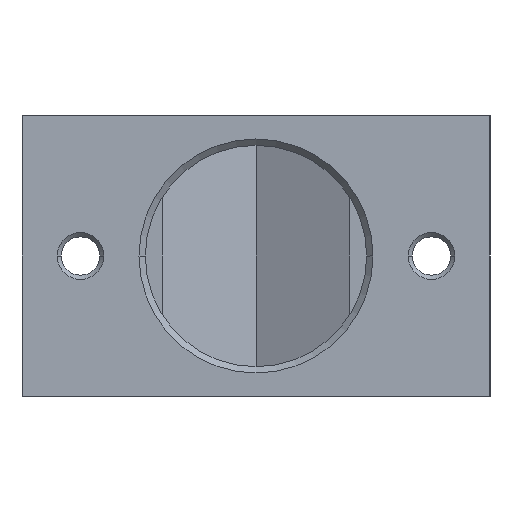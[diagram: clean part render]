
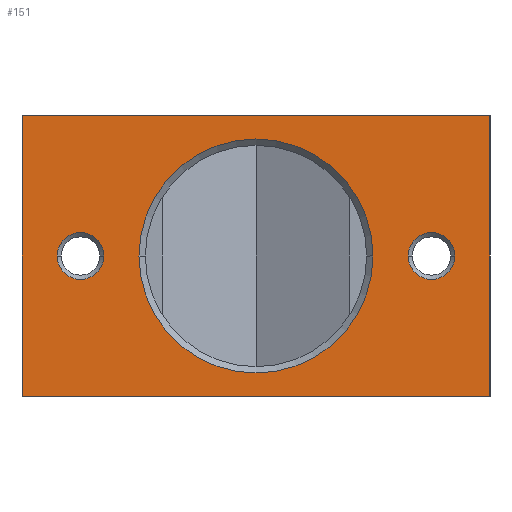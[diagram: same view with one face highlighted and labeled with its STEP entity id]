
A CAD part, left-side view. The second image highlights one B-rep face of the part: STEP entity #151.
In plain terms, the highlighted planar face has unit normal (-1, 0, 0).
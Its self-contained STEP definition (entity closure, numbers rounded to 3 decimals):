
#151 = ADVANCED_FACE( '', ( #234, #235, #236, #237 ), #238, .T. );
#234 = FACE_BOUND( '', #347, .T. );
#235 = FACE_BOUND( '', #348, .T. );
#236 = FACE_BOUND( '', #349, .T. );
#237 = FACE_OUTER_BOUND( '', #350, .T. );
#238 = PLANE( '', #351 );
#347 = EDGE_LOOP( '', ( #614, #615 ) );
#348 = EDGE_LOOP( '', ( #616, #617 ) );
#349 = EDGE_LOOP( '', ( #618, #619 ) );
#350 = EDGE_LOOP( '', ( #620, #621, #622, #623 ) );
#351 = AXIS2_PLACEMENT_3D( '', #624, #625, #626 );
#614 = ORIENTED_EDGE( '', *, *, #851, .T. );
#615 = ORIENTED_EDGE( '', *, *, #829, .T. );
#616 = ORIENTED_EDGE( '', *, *, #864, .T. );
#617 = ORIENTED_EDGE( '', *, *, #819, .T. );
#618 = ORIENTED_EDGE( '', *, *, #868, .T. );
#619 = ORIENTED_EDGE( '', *, *, #809, .T. );
#620 = ORIENTED_EDGE( '', *, *, #882, .T. );
#621 = ORIENTED_EDGE( '', *, *, #871, .F. );
#622 = ORIENTED_EDGE( '', *, *, #883, .F. );
#623 = ORIENTED_EDGE( '', *, *, #880, .T. );
#624 = CARTESIAN_POINT( '', ( 0., 30., 18. ) );
#625 = DIRECTION( '', ( -1., 0., 0. ) );
#626 = DIRECTION( '', ( 0., 1., 0. ) );
#809 = EDGE_CURVE( '', #936, #933, #937, .T. );
#819 = EDGE_CURVE( '', #954, #951, #955, .T. );
#829 = EDGE_CURVE( '', #972, #969, #973, .T. );
#851 = EDGE_CURVE( '', #969, #972, #1008, .T. );
#864 = EDGE_CURVE( '', #951, #954, #1027, .T. );
#868 = EDGE_CURVE( '', #933, #936, #1031, .T. );
#871 = EDGE_CURVE( '', #1034, #1032, #1036, .T. );
#880 = EDGE_CURVE( '', #1050, #1048, #1051, .T. );
#882 = EDGE_CURVE( '', #1048, #1032, #1053, .T. );
#883 = EDGE_CURVE( '', #1050, #1034, #1054, .T. );
#933 = VERTEX_POINT( '', #1134 );
#936 = VERTEX_POINT( '', #1138 );
#937 = CIRCLE( '', #1139, 3. );
#951 = VERTEX_POINT( '', #1158 );
#954 = VERTEX_POINT( '', #1162 );
#955 = CIRCLE( '', #1163, 3. );
#969 = VERTEX_POINT( '', #1182 );
#972 = VERTEX_POINT( '', #1186 );
#973 = CIRCLE( '', #1187, 15. );
#1008 = CIRCLE( '', #1229, 15. );
#1027 = CIRCLE( '', #1257, 3. );
#1031 = CIRCLE( '', #1261, 3. );
#1032 = VERTEX_POINT( '', #1262 );
#1034 = VERTEX_POINT( '', #1265 );
#1036 = LINE( '', #1268, #1269 );
#1048 = VERTEX_POINT( '', #1288 );
#1050 = VERTEX_POINT( '', #1291 );
#1051 = LINE( '', #1292, #1293 );
#1053 = LINE( '', #1296, #1297 );
#1054 = LINE( '', #1298, #1299 );
#1134 = CARTESIAN_POINT( '', ( 0., 25.5, 0. ) );
#1138 = CARTESIAN_POINT( '', ( 0., 19.5, 0. ) );
#1139 = AXIS2_PLACEMENT_3D( '', #1413, #1414, #1415 );
#1158 = CARTESIAN_POINT( '', ( 0., -19.5, 0. ) );
#1162 = CARTESIAN_POINT( '', ( 0., -25.5, 0. ) );
#1163 = AXIS2_PLACEMENT_3D( '', #1431, #1432, #1433 );
#1182 = CARTESIAN_POINT( '', ( 0., 15., 0. ) );
#1186 = CARTESIAN_POINT( '', ( 0., -15., 0. ) );
#1187 = AXIS2_PLACEMENT_3D( '', #1449, #1450, #1451 );
#1229 = AXIS2_PLACEMENT_3D( '', #1501, #1502, #1503 );
#1257 = AXIS2_PLACEMENT_3D( '', #1522, #1523, #1524 );
#1261 = AXIS2_PLACEMENT_3D( '', #1534, #1535, #1536 );
#1262 = CARTESIAN_POINT( '', ( 0., -30., -18. ) );
#1265 = CARTESIAN_POINT( '', ( 0., -30., 18. ) );
#1268 = CARTESIAN_POINT( '', ( 0., -30., 18. ) );
#1269 = VECTOR( '', #1539, 1. );
#1288 = CARTESIAN_POINT( '', ( 0., 30., -18. ) );
#1291 = CARTESIAN_POINT( '', ( 0., 30., 18. ) );
#1292 = CARTESIAN_POINT( '', ( 0., 30., 18. ) );
#1293 = VECTOR( '', #1548, 1. );
#1296 = CARTESIAN_POINT( '', ( 0., 30., -18. ) );
#1297 = VECTOR( '', #1550, 1. );
#1298 = CARTESIAN_POINT( '', ( 0., 30., 18. ) );
#1299 = VECTOR( '', #1551, 1. );
#1413 = CARTESIAN_POINT( '', ( 0., 22.5, 0. ) );
#1414 = DIRECTION( '', ( 1., 0., 0. ) );
#1415 = DIRECTION( '', ( 0., 1., 0. ) );
#1431 = CARTESIAN_POINT( '', ( 0., -22.5, 0. ) );
#1432 = DIRECTION( '', ( 1., 0., 0. ) );
#1433 = DIRECTION( '', ( 0., 1., 0. ) );
#1449 = CARTESIAN_POINT( '', ( 0., 0., 0. ) );
#1450 = DIRECTION( '', ( 1., 0., 0. ) );
#1451 = DIRECTION( '', ( 0., 1., 0. ) );
#1501 = CARTESIAN_POINT( '', ( 0., 0., 0. ) );
#1502 = DIRECTION( '', ( 1., 0., 0. ) );
#1503 = DIRECTION( '', ( 0., 1., 0. ) );
#1522 = CARTESIAN_POINT( '', ( 0., -22.5, 0. ) );
#1523 = DIRECTION( '', ( 1., 0., 0. ) );
#1524 = DIRECTION( '', ( 0., 1., 0. ) );
#1534 = CARTESIAN_POINT( '', ( 0., 22.5, 0. ) );
#1535 = DIRECTION( '', ( 1., 0., 0. ) );
#1536 = DIRECTION( '', ( 0., 1., 0. ) );
#1539 = DIRECTION( '', ( 0., 0., -1. ) );
#1548 = DIRECTION( '', ( 0., 0., -1. ) );
#1550 = DIRECTION( '', ( 0., -1., 0. ) );
#1551 = DIRECTION( '', ( 0., -1., 0. ) );
